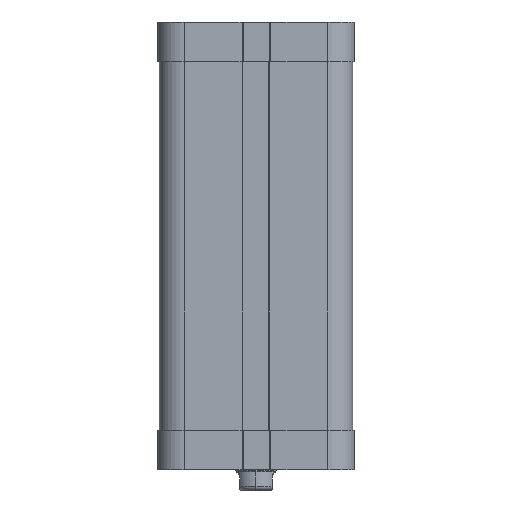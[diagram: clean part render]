
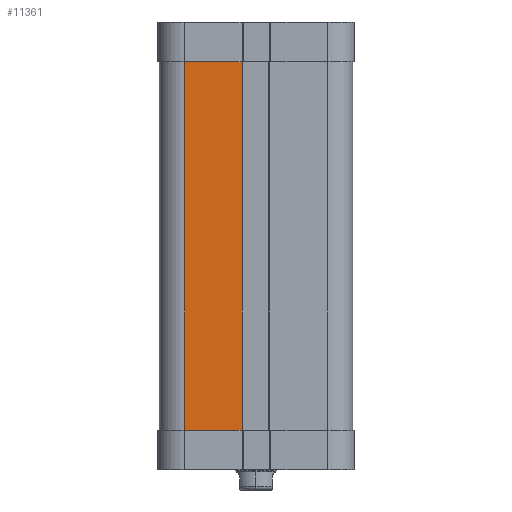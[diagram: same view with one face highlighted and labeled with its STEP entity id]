
A CAD part, left-side view. The second image highlights one B-rep face of the part: STEP entity #11361.
In plain terms, the highlighted planar face has unit normal (-1, 0, 0).
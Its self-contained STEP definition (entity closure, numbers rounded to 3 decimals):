
#7029=CARTESIAN_POINT('',(-26.75,-9.85,-11.6));
#7030=VERTEX_POINT('',#7029);
#7038=CARTESIAN_POINT('',(-26.75,13.0,-11.6));
#7039=VERTEX_POINT('',#7038);
#7040=CARTESIAN_POINT('',(-26.75,13.0,-11.6));
#7041=DIRECTION('',(0.0,-1.0,0.0));
#7042=VECTOR('',#7041,22.85);
#7043=LINE('',#7040,#7042);
#7044=EDGE_CURVE('',#7039,#7030,#7043,.T.);
#8583=CARTESIAN_POINT('',(-26.75,13.0,134.8));
#8584=VERTEX_POINT('',#8583);
#8592=CARTESIAN_POINT('',(-26.75,-9.85,134.8));
#8593=VERTEX_POINT('',#8592);
#8594=CARTESIAN_POINT('',(-26.75,-9.85,134.8));
#8595=DIRECTION('',(0.0,1.0,0.0));
#8596=VECTOR('',#8595,22.85);
#8597=LINE('',#8594,#8596);
#8598=EDGE_CURVE('',#8593,#8584,#8597,.T.);
#11281=CARTESIAN_POINT('',(-26.75,-9.85,134.8));
#11282=DIRECTION('',(0.0,0.0,-1.0));
#11283=VECTOR('',#11282,146.4);
#11284=LINE('',#11281,#11283);
#11285=EDGE_CURVE('',#8593,#7030,#11284,.T.);
#11345=CARTESIAN_POINT('',(-26.75,-43.8,-11.6));
#11346=DIRECTION('',(-1.0,0.0,0.0));
#11347=DIRECTION('',(0.0,0.0,1.0));
#11348=AXIS2_PLACEMENT_3D('',#11345,#11346,#11347);
#11349=PLANE('',#11348);
#11350=ORIENTED_EDGE('',*,*,#11285,.F.);
#11351=ORIENTED_EDGE('',*,*,#8598,.T.);
#11352=CARTESIAN_POINT('',(-26.75,13.0,-11.6));
#11353=DIRECTION('',(0.0,0.0,1.0));
#11354=VECTOR('',#11353,146.4);
#11355=LINE('',#11352,#11354);
#11356=EDGE_CURVE('',#7039,#8584,#11355,.T.);
#11357=ORIENTED_EDGE('',*,*,#11356,.F.);
#11358=ORIENTED_EDGE('',*,*,#7044,.T.);
#11359=EDGE_LOOP('',(#11350,#11351,#11357,#11358));
#11360=FACE_OUTER_BOUND('',#11359,.T.);
#11361=ADVANCED_FACE('',(#11360),#11349,.T.);
